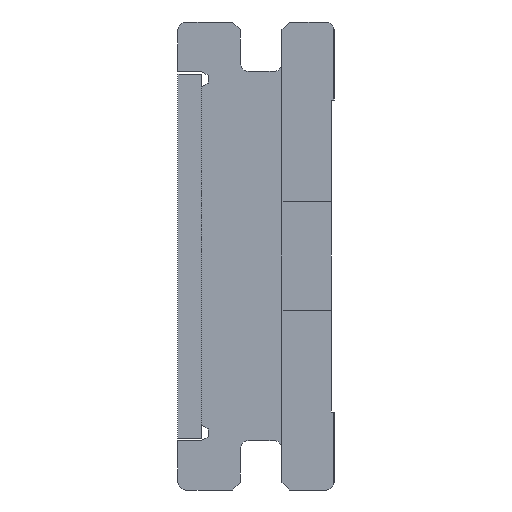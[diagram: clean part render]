
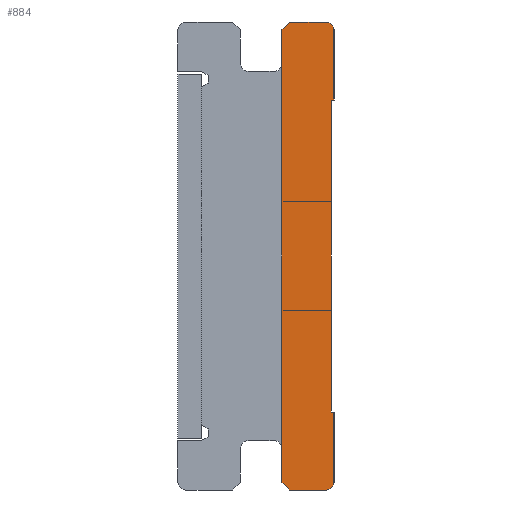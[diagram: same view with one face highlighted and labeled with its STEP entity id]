
A CAD part, left-side view. The second image highlights one B-rep face of the part: STEP entity #884.
In plain terms, the highlighted planar face has unit normal (-1, 0, 0).
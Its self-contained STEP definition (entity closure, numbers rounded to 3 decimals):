
#3 = VERTEX_POINT ( 'NONE', #1797 ) ;
#8 = DIRECTION ( 'NONE',  ( 0., -1., 0. ) ) ;
#13 = VECTOR ( 'NONE', #1698, 1000. ) ;
#40 = VERTEX_POINT ( 'NONE', #663 ) ;
#94 = ORIENTED_EDGE ( 'NONE', *, *, #1667, .F. ) ;
#98 = VECTOR ( 'NONE', #1726, 1000. ) ;
#114 = VECTOR ( 'NONE', #463, 1000. ) ;
#135 = VECTOR ( 'NONE', #1113, 1000. ) ;
#145 = DIRECTION ( 'NONE',  ( 0., 0., -1. ) ) ;
#170 = CARTESIAN_POINT ( 'NONE',  ( 0., 5.1, -15.8 ) ) ;
#183 = LINE ( 'NONE', #1683, #98 ) ;
#197 = LINE ( 'NONE', #570, #135 ) ;
#237 = CARTESIAN_POINT ( 'NONE',  ( 0., 0., -15. ) ) ;
#331 = VECTOR ( 'NONE', #1833, 1000. ) ;
#387 = ORIENTED_EDGE ( 'NONE', *, *, #875, .F. ) ;
#424 = DIRECTION ( 'NONE',  ( 1., 0., 0. ) ) ;
#432 = CARTESIAN_POINT ( 'NONE',  ( 0., 2., -17.7 ) ) ;
#463 = DIRECTION ( 'NONE',  ( 0., 0., -1. ) ) ;
#479 = CARTESIAN_POINT ( 'NONE',  ( 0., 0., -15. ) ) ;
#525 = EDGE_CURVE ( 'NONE', #858, #1998, #1274, .T. ) ;
#547 = CIRCLE ( 'NONE', #1134, 0.3 ) ;
#561 = FACE_OUTER_BOUND ( 'NONE', #886, .T. ) ;
#570 = CARTESIAN_POINT ( 'NONE',  ( 0., 1.7, -18. ) ) ;
#571 = DIRECTION ( 'NONE',  ( 0., 1., 0. ) ) ;
#577 = VECTOR ( 'NONE', #8, 1000. ) ;
#626 = DIRECTION ( 'NONE',  ( 0., 0., -1. ) ) ;
#663 = CARTESIAN_POINT ( 'NONE',  ( 0., 0., -0.3 ) ) ;
#723 = VERTEX_POINT ( 'NONE', #927 ) ;
#725 = DIRECTION ( 'NONE',  ( 1., 0., 0. ) ) ;
#759 = CARTESIAN_POINT ( 'NONE',  ( 0., 0., -15. ) ) ;
#797 = VERTEX_POINT ( 'NONE', #991 ) ;
#805 = LINE ( 'NONE', #1341, #2209 ) ;
#853 = CARTESIAN_POINT ( 'NONE',  ( 0., 0.3, -17.7 ) ) ;
#858 = VERTEX_POINT ( 'NONE', #432 ) ;
#875 = EDGE_CURVE ( 'NONE', #723, #797, #183, .T. ) ;
#884 = ADVANCED_FACE ( 'NONE', ( #561 ), #2102, .F. ) ;
#886 = EDGE_LOOP ( 'NONE', ( #1767, #1564, #1679, #387, #2278, #2273, #1545, #2313, #2074, #1243, #1721, #94 ) ) ;
#893 = AXIS2_PLACEMENT_3D ( 'NONE', #853, #424, #626 ) ;
#924 = VERTEX_POINT ( 'NONE', #1539 ) ;
#927 = CARTESIAN_POINT ( 'NONE',  ( 0., 0.3, -18. ) ) ;
#936 = AXIS2_PLACEMENT_3D ( 'NONE', #170, #725, #571 ) ;
#956 = CARTESIAN_POINT ( 'NONE',  ( 0., 2., -17.7 ) ) ;
#962 = DIRECTION ( 'NONE',  ( 0., -0.707, 0.707 ) ) ;
#991 = CARTESIAN_POINT ( 'NONE',  ( 0., 1.7, -18. ) ) ;
#1014 = EDGE_CURVE ( 'NONE', #2247, #1426, #1992, .T. ) ;
#1070 = EDGE_CURVE ( 'NONE', #1922, #3, #1223, .T. ) ;
#1113 = DIRECTION ( 'NONE',  ( 0., 0.707, 0.707 ) ) ;
#1118 = EDGE_CURVE ( 'NONE', #1286, #40, #547, .T. ) ;
#1134 = AXIS2_PLACEMENT_3D ( 'NONE', #1859, #2422, #1320 ) ;
#1187 = EDGE_CURVE ( 'NONE', #1998, #2107, #805, .T. ) ;
#1223 = LINE ( 'NONE', #1404, #1967 ) ;
#1243 = ORIENTED_EDGE ( 'NONE', *, *, #2343, .F. ) ;
#1274 = LINE ( 'NONE', #956, #13 ) ;
#1286 = VERTEX_POINT ( 'NONE', #1427 ) ;
#1320 = DIRECTION ( 'NONE',  ( 0., 0., 1. ) ) ;
#1321 = EDGE_CURVE ( 'NONE', #3, #924, #1403, .T. ) ;
#1341 = CARTESIAN_POINT ( 'NONE',  ( 0., 1.7, 0. ) ) ;
#1369 = CARTESIAN_POINT ( 'NONE',  ( 0., 0., -3. ) ) ;
#1403 = LINE ( 'NONE', #2187, #114 ) ;
#1404 = CARTESIAN_POINT ( 'NONE',  ( 0., 0., -3. ) ) ;
#1426 = VERTEX_POINT ( 'NONE', #2434 ) ;
#1427 = CARTESIAN_POINT ( 'NONE',  ( 0., 0.3, 0. ) ) ;
#1428 = CARTESIAN_POINT ( 'NONE',  ( 0., 0.3, 0. ) ) ;
#1435 = LINE ( 'NONE', #2425, #331 ) ;
#1539 = CARTESIAN_POINT ( 'NONE',  ( 0., 0.1, -15. ) ) ;
#1545 = ORIENTED_EDGE ( 'NONE', *, *, #2081, .F. ) ;
#1564 = ORIENTED_EDGE ( 'NONE', *, *, #525, .F. ) ;
#1595 = CARTESIAN_POINT ( 'NONE',  ( 0., 2., -0.3 ) ) ;
#1667 = EDGE_CURVE ( 'NONE', #2107, #1286, #1840, .T. ) ;
#1679 = ORIENTED_EDGE ( 'NONE', *, *, #1821, .F. ) ;
#1683 = CARTESIAN_POINT ( 'NONE',  ( 0., 0.3, -18. ) ) ;
#1698 = DIRECTION ( 'NONE',  ( 0., 0., 1. ) ) ;
#1721 = ORIENTED_EDGE ( 'NONE', *, *, #1118, .F. ) ;
#1726 = DIRECTION ( 'NONE',  ( 0., 1., 0. ) ) ;
#1767 = ORIENTED_EDGE ( 'NONE', *, *, #1187, .F. ) ;
#1797 = CARTESIAN_POINT ( 'NONE',  ( 0., 0.1, -3. ) ) ;
#1821 = EDGE_CURVE ( 'NONE', #797, #858, #197, .T. ) ;
#1833 = DIRECTION ( 'NONE',  ( 0., 0., -1. ) ) ;
#1840 = LINE ( 'NONE', #1428, #2066 ) ;
#1859 = CARTESIAN_POINT ( 'NONE',  ( 0., 0.3, -0.3 ) ) ;
#1885 = EDGE_CURVE ( 'NONE', #1426, #723, #1962, .T. ) ;
#1887 = CARTESIAN_POINT ( 'NONE',  ( 0., 1.7, 0. ) ) ;
#1922 = VERTEX_POINT ( 'NONE', #1369 ) ;
#1929 = VECTOR ( 'NONE', #145, 1000. ) ;
#1962 = CIRCLE ( 'NONE', #893, 0.3 ) ;
#1967 = VECTOR ( 'NONE', #2178, 1000. ) ;
#1992 = LINE ( 'NONE', #479, #1929 ) ;
#1998 = VERTEX_POINT ( 'NONE', #1595 ) ;
#2066 = VECTOR ( 'NONE', #2214, 1000. ) ;
#2074 = ORIENTED_EDGE ( 'NONE', *, *, #1070, .F. ) ;
#2081 = EDGE_CURVE ( 'NONE', #924, #2247, #2428, .T. ) ;
#2102 = PLANE ( 'NONE',  #936 ) ;
#2107 = VERTEX_POINT ( 'NONE', #1887 ) ;
#2178 = DIRECTION ( 'NONE',  ( 0., 1., 0. ) ) ;
#2187 = CARTESIAN_POINT ( 'NONE',  ( 0., 0.1, -3. ) ) ;
#2209 = VECTOR ( 'NONE', #962, 1000. ) ;
#2214 = DIRECTION ( 'NONE',  ( 0., -1., 0. ) ) ;
#2247 = VERTEX_POINT ( 'NONE', #237 ) ;
#2273 = ORIENTED_EDGE ( 'NONE', *, *, #1014, .F. ) ;
#2278 = ORIENTED_EDGE ( 'NONE', *, *, #1885, .F. ) ;
#2313 = ORIENTED_EDGE ( 'NONE', *, *, #1321, .F. ) ;
#2343 = EDGE_CURVE ( 'NONE', #40, #1922, #1435, .T. ) ;
#2422 = DIRECTION ( 'NONE',  ( 1., 0., 0. ) ) ;
#2425 = CARTESIAN_POINT ( 'NONE',  ( 0., 0., -0.3 ) ) ;
#2428 = LINE ( 'NONE', #759, #577 ) ;
#2434 = CARTESIAN_POINT ( 'NONE',  ( 0., 0., -17.7 ) ) ;
